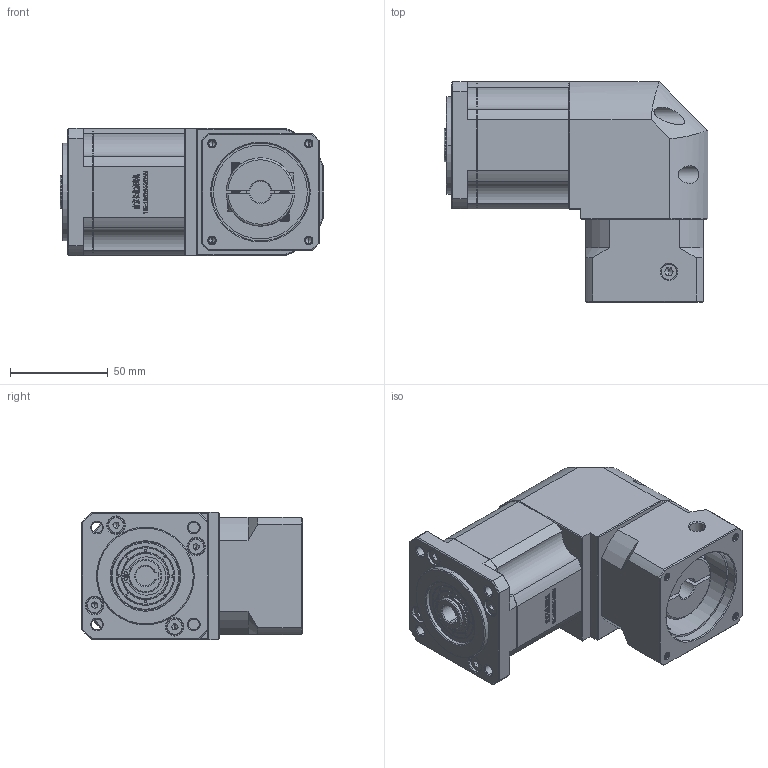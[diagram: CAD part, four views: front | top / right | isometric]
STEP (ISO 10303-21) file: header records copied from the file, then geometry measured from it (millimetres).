
FILE_DESCRIPTION (( 'STEP AP214' ), '1' );
FILE_NAME ('ZBR60-K10-L2-11-50-70-M4.STEP', '2022-04-19T08:23:41', ( '' ), ( 'Microsoft' ), 'SwSTEP 2.0', 'SolidWorks 2016', '' );
FILE_SCHEMA (( 'AUTOMOTIVE_DESIGN' ));
Length unit declared in the file: millimetre
Products named in the file (1): ZBR60-K10-L2-11-50-70-M4
Bounding box: 135 x 112.7 x 65 mm (x, y, z)
Volume: 579802.2 mm3; surface area: 80469.5 mm2
Topology: 5 solids, 5 shells, 2782 faces, 7543 edges, 4900 vertices
Faces by surface type: plane 1469, bspline 572, cylinder 385, cone 324, torus 32
Entity records: 146877 total; most frequent: CARTESIAN_POINT 50164, ORIENTED_EDGE 15030, DIRECTION 11545, EDGE_CURVE 7515, VECTOR 4987, LINE 4987, VERTEX_POINT 4900, AXIS2_PLACEMENT_3D 3279
